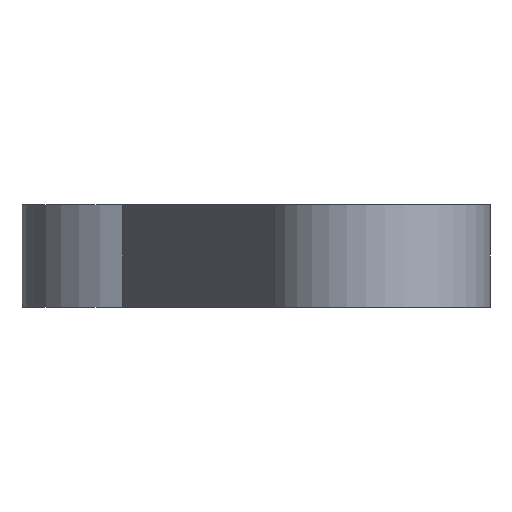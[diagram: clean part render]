
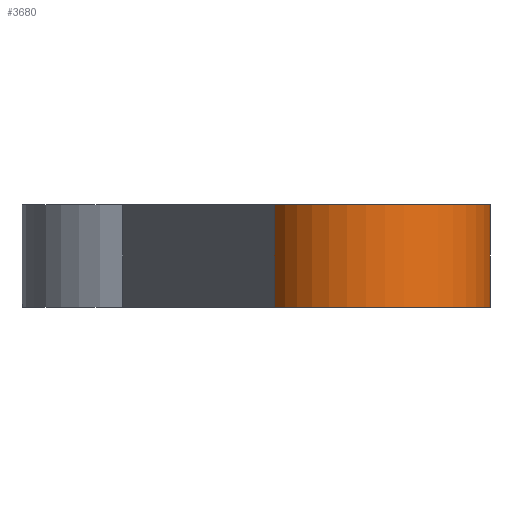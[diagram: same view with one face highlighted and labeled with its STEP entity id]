
A CAD part, left-side view. The second image highlights one B-rep face of the part: STEP entity #3680.
In plain terms, the highlighted cylindrical face has radius 28 mm (diameter 56 mm), a partial arc.
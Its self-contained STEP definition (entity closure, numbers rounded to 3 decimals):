
#65=CARTESIAN_POINT('',(-90.,-51.5,-12.5));
#66=DIRECTION('',(0.,0.,1.));
#67=DIRECTION('',(-0.469,0.883,0.));
#68=AXIS2_PLACEMENT_3D('',#65,#66,#67);
#149=CARTESIAN_POINT('',(-90.,-51.5,12.5));
#150=DIRECTION('',(0.,0.,1.));
#151=DIRECTION('',(-0.469,0.883,0.));
#152=AXIS2_PLACEMENT_3D('',#149,#150,#151);
#871=DIRECTION('',(0.,0.,1.));
#872=VECTOR('',#871,25.);
#873=CARTESIAN_POINT('',(-85.138,-79.075,-12.5));
#874=LINE('',#873,#872);
#875=DIRECTION('',(0.,0.,1.));
#876=VECTOR('',#875,25.);
#877=CARTESIAN_POINT('',(-103.145,-26.777,-12.5));
#878=LINE('',#877,#876);
#2331=CARTESIAN_POINT('',(-103.145,-26.777,-12.5));
#2333=VERTEX_POINT('',#2331);
#2334=CARTESIAN_POINT('',(-85.138,-79.075,-12.5));
#2335=VERTEX_POINT('',#2334);
#2337=CARTESIAN_POINT('',(-103.145,-26.777,12.5));
#2339=VERTEX_POINT('',#2337);
#2340=CARTESIAN_POINT('',(-85.138,-79.075,12.5));
#2341=VERTEX_POINT('',#2340);
#3668=CARTESIAN_POINT('',(-90.,-51.5,-12.5));
#3669=DIRECTION('',(0.,0.,1.));
#3670=DIRECTION('',(1.,0.,0.));
#3671=AXIS2_PLACEMENT_3D('',#3668,#3669,#3670);
#3672=CYLINDRICAL_SURFACE('',#3671,28.);
#3673=ORIENTED_EDGE('',*,*,#3095,.F.);
#3675=ORIENTED_EDGE('',*,*,#3674,.T.);
#3676=ORIENTED_EDGE('',*,*,#3196,.T.);
#3677=ORIENTED_EDGE('',*,*,#3662,.F.);
#3678=EDGE_LOOP('',(#3673,#3675,#3676,#3677));
#3679=FACE_OUTER_BOUND('',#3678,.F.);
#3680=ADVANCED_FACE('',(#3679),#3672,.T.);
#69=CIRCLE('',#68,28.);
#153=CIRCLE('',#152,28.);
#3095=EDGE_CURVE('',#2333,#2335,#69,.T.);
#3196=EDGE_CURVE('',#2339,#2341,#153,.T.);
#3662=EDGE_CURVE('',#2335,#2341,#874,.T.);
#3674=EDGE_CURVE('',#2333,#2339,#878,.T.);
